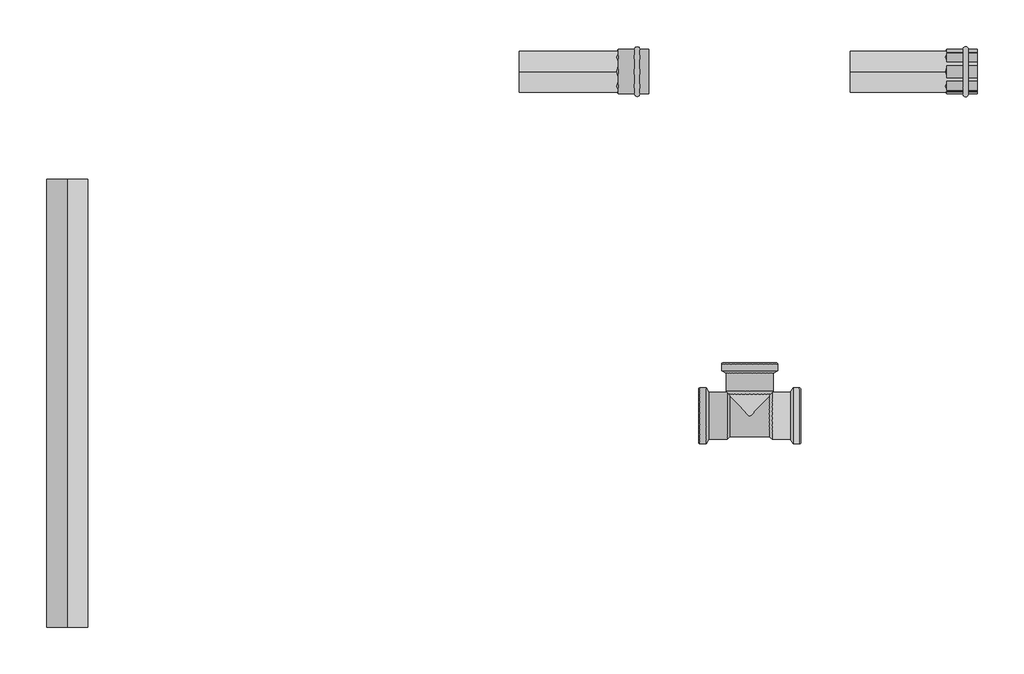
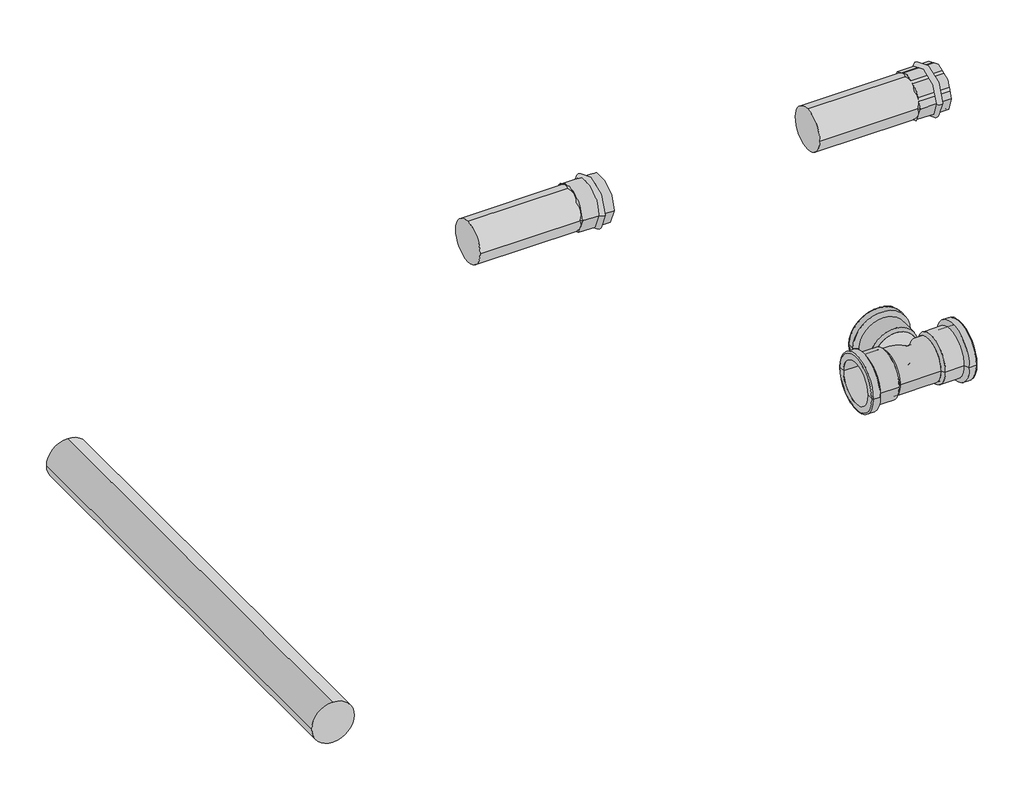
# One storey, incomplete: 3 pipe fittings, 3 pipe segments.
"""IFC4 building model written with IfcOpenShell, lengths in millimetres."""

from ifc_helpers import new_model, si_unit, point, frame, frame_2d, origin, place, context, project, spatial, circle_curve, trimmed, segment, composite_curve, outline, extrude, transform, mapped, element, save
from components import var_000084ad, var_bb428cf8, var_f811d76c

model = new_model("IFC4")

# Units and contexts
model_context = context("Model", 3, world=origin())
ifc_project = project(units=[si_unit("LENGTHUNIT", "METRE", prefix="MILLI")], contexts=[model_context])

# Site, building, storey
site = spatial("IfcSite", under=ifc_project)
building = spatial("IfcBuilding", under=site)
storey = spatial("IfcBuildingStorey", under=building, Name="Amanco AWWA C900", Elevation=0.0)

# Pipe fittings
placement = place(None, origin())
var_shape = var_000084ad(model_context)
element("IfcPipeFitting", 1, ObjectType="AmancoWavin_UnionesDeTuberia_AwwaC900Tee : Var.", at=placement, inside=storey, context=model_context, shape_type="MappedRepresentation", body=[
    mapped(var_shape, transform((1379.7408002, -6297.1210726, 0.0), x_axis=(1.0, 0.0, 0.0), y_axis=(0.0, 1.0, 0.0), z_axis=(0.0, 0.0, 1.0))),
])
var_2_shape = var_bb428cf8(model_context)
element("IfcPipeFitting", 2, ObjectType="AmancoWavin_UnionesDeTuberia_AwwaC900CampanaA : Var.", at=placement, inside=storey, context=model_context, shape_type="MappedRepresentation", body=[
    mapped(var_2_shape, transform((821.5261675, -4835.8236788, 0.0), x_axis=(1.0, 0.0, 0.0), y_axis=(0.0, 1.0, 0.0), z_axis=(0.0, 0.0, 1.0))),
])
var_3_shape = var_f811d76c(model_context)
element("IfcPipeFitting", 3, ObjectType="AmancoWavin_UnionesDeTuberia_AwwaC900CampanaB : Var.", at=placement, inside=storey, context=model_context, shape_type="MappedRepresentation", body=[
    mapped(var_3_shape, transform((2346.818656, -4835.8236788, 0.0), x_axis=(1.0, 0.0, 0.0), y_axis=(0.0, -1.0, 0.0), z_axis=(0.0, 0.0, -1.0))),
])

# Pipe segments
element("IfcPipeSegment", 4, ObjectType="AmancoWavin_Tuberias_AWWA-C900-DR25_4\"-12\"", at=placement, inside=storey, context=model_context, shape_type="SweptSolid", body=[
    extrude(outline(composite_curve([segment(trimmed(circle_curve(frame_2d((-4835.8236788, 0.0)), 87.709375), [point((-4748.1143038, 0.0))], [point((-4835.8236788, -87.709375))], False, "CARTESIAN"), True, "CONTINUOUS"), segment(trimmed(circle_curve(frame_2d((-4835.8236788, 0.0)), 87.709375), [point((-4835.8236788, -87.709375))], [point((-4923.5330538, 0.0))], False, "CARTESIAN"), True, "CONTINUOUS"), segment(trimmed(circle_curve(frame_2d((-4835.8236788, 0.0)), 87.709375), [point((-4923.5330538, 0.0))], [point((-4835.8236788, 87.709375))], False, "CARTESIAN"), True, "CONTINUOUS"), segment(trimmed(circle_curve(frame_2d((-4835.8236788, 0.0)), 87.709375), [point((-4835.8236788, 87.709375))], [point((-4748.1143038, 0.0))], False, "CARTESIAN"), True, "CONTINUOUS")], self_intersect=False)), frame((401.5261675, 0.0, 0.0), z_axis=(1.0, 0.0, 0.0), x_axis=(0.0, 1.0, 0.0)), (0.0, 0.0, 1.0), 420.0),
])
element("IfcPipeSegment", 5, ObjectType="AmancoWavin_Tuberias_AWWA-C900-DR25_4\"-12\"", at=placement, inside=storey, context=model_context, shape_type="SweptSolid", body=[
    extrude(outline(composite_curve([segment(trimmed(circle_curve(frame_2d((-4835.8236788, 0.0)), 87.709375), [point((-4748.1143038, 0.0))], [point((-4835.8236788, -87.709375))], False, "CARTESIAN"), True, "CONTINUOUS"), segment(trimmed(circle_curve(frame_2d((-4835.8236788, 0.0)), 87.709375), [point((-4835.8236788, -87.709375))], [point((-4923.5330538, 0.0))], False, "CARTESIAN"), True, "CONTINUOUS"), segment(trimmed(circle_curve(frame_2d((-4835.8236788, 0.0)), 87.709375), [point((-4923.5330538, 0.0))], [point((-4835.8236788, 87.709375))], False, "CARTESIAN"), True, "CONTINUOUS"), segment(trimmed(circle_curve(frame_2d((-4835.8236788, 0.0)), 87.709375), [point((-4835.8236788, 87.709375))], [point((-4748.1143038, 0.0))], False, "CARTESIAN"), True, "CONTINUOUS")], self_intersect=False)), frame((1806.818656, 0.0, 0.0), z_axis=(1.0, 0.0, 0.0), x_axis=(0.0, 1.0, 0.0)), (0.0, 0.0, 1.0), 540.0),
])
element("IfcPipeSegment", 6, ObjectType="AmancoWavin_Tuberias_AWWA-C900-DR25_4\"-12\"", at=placement, inside=storey, context=model_context, shape_type="SweptSolid", body=[
    extrude(outline(composite_curve([segment(trimmed(circle_curve(frame_2d((0.0, -1517.5668133)), 87.709375), [point((0.0, -1605.2761883))], [point((-87.709375, -1517.5668133))], False, "CARTESIAN"), True, "CONTINUOUS"), segment(trimmed(circle_curve(frame_2d((0.0, -1517.5668133)), 87.709375), [point((-87.709375, -1517.5668133))], [point((0.0, -1429.8574383))], False, "CARTESIAN"), True, "CONTINUOUS"), segment(trimmed(circle_curve(frame_2d((0.0, -1517.5668133)), 87.709375), [point((0.0, -1429.8574383))], [point((87.709375, -1517.5668133))], False, "CARTESIAN"), True, "CONTINUOUS"), segment(trimmed(circle_curve(frame_2d((0.0, -1517.5668133)), 87.709375), [point((87.709375, -1517.5668133))], [point((0.0, -1605.2761883))], False, "CARTESIAN"), True, "CONTINUOUS")], self_intersect=False)), frame((0.0, -7193.5327984, 0.0), z_axis=(0.0, 1.0, 0.0), x_axis=(0.0, 0.0, 1.0)), (0.0, 0.0, 1.0), 1900.0),
])

save(model, "model.ifc")
